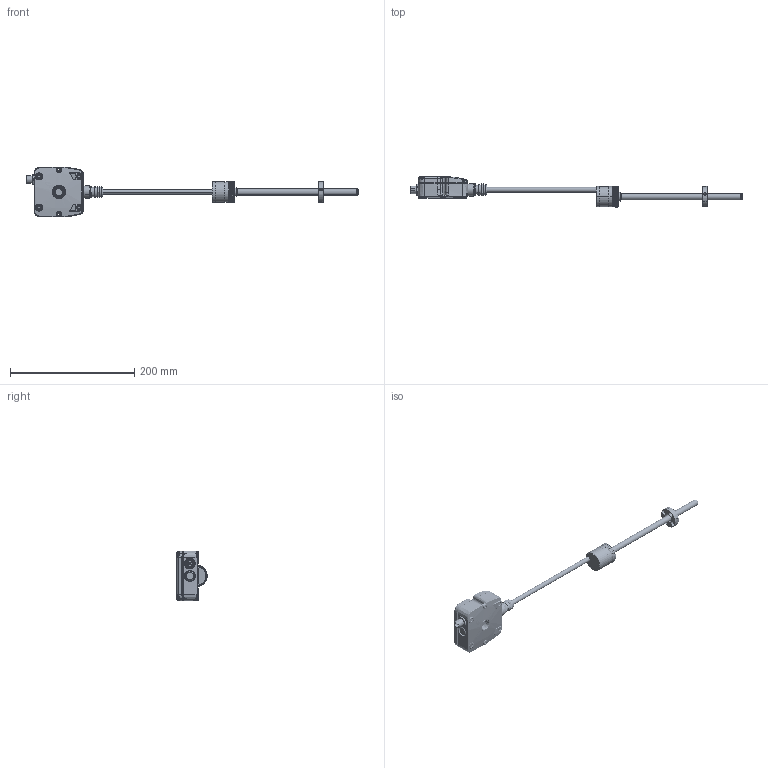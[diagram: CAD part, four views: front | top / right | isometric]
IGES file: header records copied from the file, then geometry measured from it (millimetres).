
Start section: SolidWorks IGES file using analytic representation for surfaces
Global section: file name: I:\Disegni Catalogo\Posizione\RK\RK-2_0100\3D\Iges 5.3\RK2_0100.IGS; native system: SolidWorks 2009; preprocessor: SolidWorks 2009; author: Cherchi; date: 090618.110045; units: millimetre
Bounding box: 533.46 x 49.06 x 80 mm (x, y, z)
Surface area: 86855.7 mm2 (no closed solid volume)
Topology: 0 solids, 0 shells, 2268 faces, 26108 edges, 26029 vertices
Faces by surface type: bspline 1398, revolution 870
